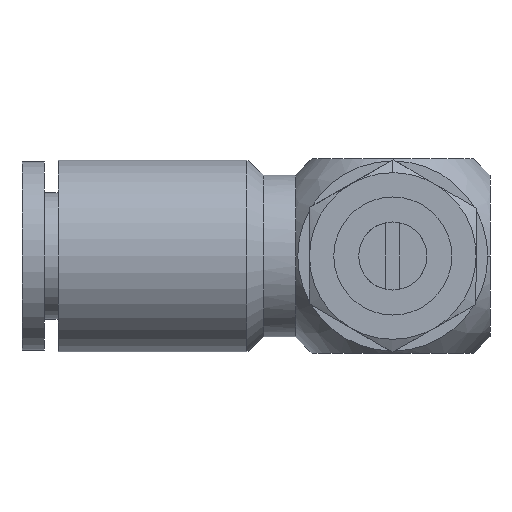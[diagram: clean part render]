
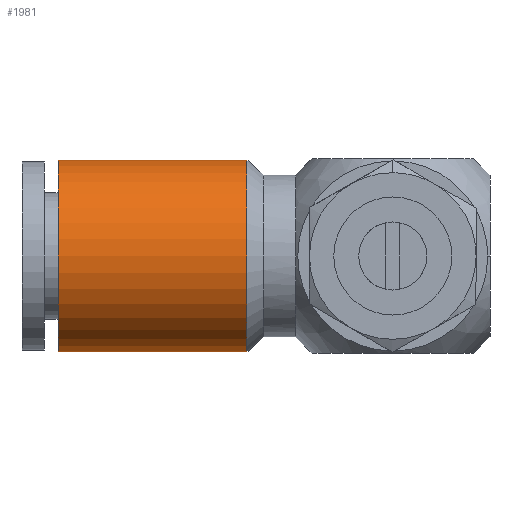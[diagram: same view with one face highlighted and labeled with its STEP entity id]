
A CAD part, left-side view. The second image highlights one B-rep face of the part: STEP entity #1981.
In plain terms, the highlighted cylindrical face has radius 6.91 mm (diameter 13.82 mm), a partial arc.
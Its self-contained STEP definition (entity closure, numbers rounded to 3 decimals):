
#16 = VERTEX_POINT ( 'NONE', #144 ) ;
#119 = AXIS2_PLACEMENT_3D ( 'NONE', #2002, #366, #396 ) ;
#128 = AXIS2_PLACEMENT_3D ( 'NONE', #2133, #149, #335 ) ;
#130 = AXIS2_PLACEMENT_3D ( 'NONE', #1500, #918, #948 ) ;
#144 = CARTESIAN_POINT ( 'NONE',  ( 0., 24.1, 6.91 ) ) ;
#149 = DIRECTION ( 'NONE',  ( 0., -1., 0. ) ) ;
#240 = LINE ( 'NONE', #442, #1040 ) ;
#243 = CARTESIAN_POINT ( 'NONE',  ( 0., 10.5, -6.91 ) ) ;
#335 = DIRECTION ( 'NONE',  ( 0., 0., -1. ) ) ;
#366 = DIRECTION ( 'NONE',  ( 0., 1., 0. ) ) ;
#396 = DIRECTION ( 'NONE',  ( 0., 0., 1. ) ) ;
#436 = VERTEX_POINT ( 'NONE', #456 ) ;
#442 = CARTESIAN_POINT ( 'NONE',  ( 0., 24.1, -6.91 ) ) ;
#456 = CARTESIAN_POINT ( 'NONE',  ( 0., 10.5, 6.91 ) ) ;
#640 = CYLINDRICAL_SURFACE ( 'NONE', #128, 6.91 ) ;
#826 = ORIENTED_EDGE ( 'NONE', *, *, #1617, .T. ) ;
#918 = DIRECTION ( 'NONE',  ( 0., 1., 0. ) ) ;
#948 = DIRECTION ( 'NONE',  ( 0., 0., 1. ) ) ;
#996 = VECTOR ( 'NONE', #1382, 1000. ) ;
#1040 = VECTOR ( 'NONE', #1480, 1000. ) ;
#1140 = EDGE_LOOP ( 'NONE', ( #1927, #1201, #2087, #826 ) ) ;
#1201 = ORIENTED_EDGE ( 'NONE', *, *, #2312, .F. ) ;
#1216 = VERTEX_POINT ( 'NONE', #243 ) ;
#1294 = CIRCLE ( 'NONE', #119, 6.91 ) ;
#1362 = CARTESIAN_POINT ( 'NONE',  ( 0., 24.1, 6.91 ) ) ;
#1380 = FACE_OUTER_BOUND ( 'NONE', #1140, .T. ) ;
#1382 = DIRECTION ( 'NONE',  ( 0., -1., 0. ) ) ;
#1480 = DIRECTION ( 'NONE',  ( 0., -1., 0. ) ) ;
#1500 = CARTESIAN_POINT ( 'NONE',  ( 0., 24.1, 0. ) ) ;
#1532 = VERTEX_POINT ( 'NONE', #2126 ) ;
#1549 = EDGE_CURVE ( 'NONE', #16, #436, #2295, .T. ) ;
#1617 = EDGE_CURVE ( 'NONE', #1216, #436, #1294, .T. ) ;
#1840 = EDGE_CURVE ( 'NONE', #1532, #1216, #240, .T. ) ;
#1927 = ORIENTED_EDGE ( 'NONE', *, *, #1549, .F. ) ;
#1981 = ADVANCED_FACE ( 'NONE', ( #1380 ), #640, .T. ) ;
#2002 = CARTESIAN_POINT ( 'NONE',  ( 0., 10.5, 0. ) ) ;
#2017 = CIRCLE ( 'NONE', #130, 6.91 ) ;
#2087 = ORIENTED_EDGE ( 'NONE', *, *, #1840, .T. ) ;
#2126 = CARTESIAN_POINT ( 'NONE',  ( 0., 24.1, -6.91 ) ) ;
#2133 = CARTESIAN_POINT ( 'NONE',  ( 0., 24.1, 0. ) ) ;
#2295 = LINE ( 'NONE', #1362, #996 ) ;
#2312 = EDGE_CURVE ( 'NONE', #1532, #16, #2017, .T. ) ;
